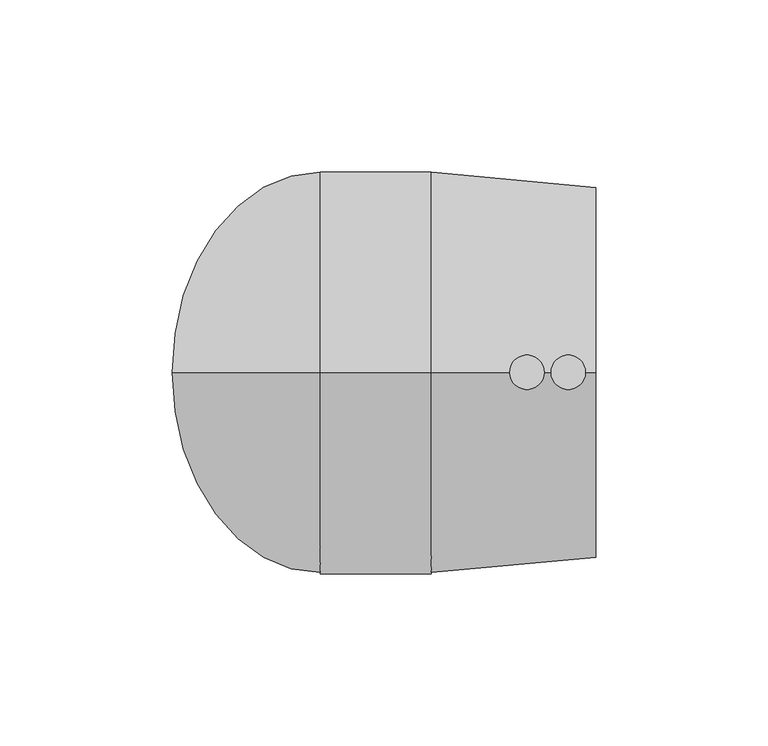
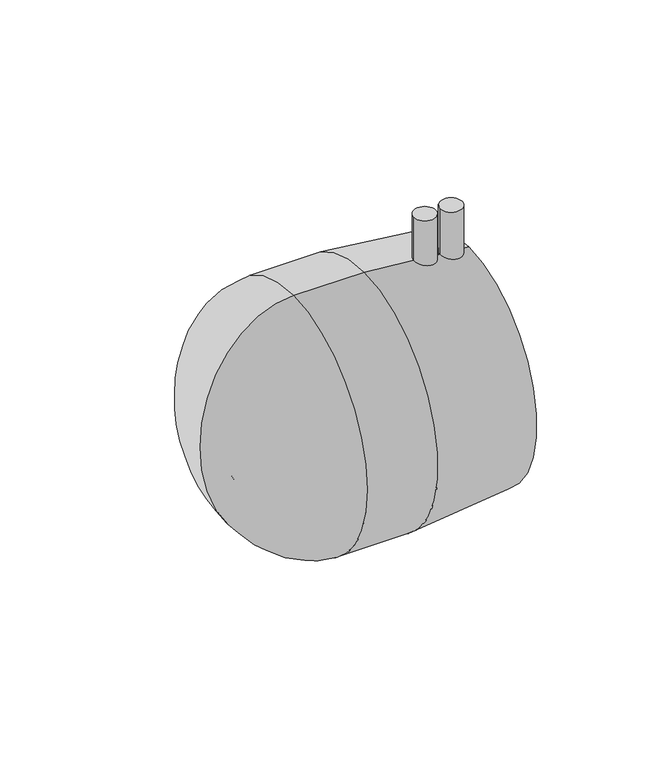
"""IFC4 building model written with IfcOpenShell, lengths in millimetres: pipe fitting geometry, Plumbing_Pipe-Fittings_Plasson_Monolithic-Weld-End-Cap-for-Balloon-Saddle_498304 : Plumbing_Pipe-Fittings_Plasson_Monolithic-Weld-End-Cap-for-Balloon-Saddle_498304."""

from ifc_helpers import new_model, si_unit, point, frame, frame_2d, origin, place, context, project, spatial, polyline, circle_curve, ellipse_curve, trimmed, segment, composite_curve, outline, extrude, source, transform, mapped, element, save
from ifc_brep_helpers import plane_surface, cylinder_surface, revolved_surface, advanced_brep


def pipe_fitting_ee337b03(model_context):
    return source(origin(), model_context, "Body", "SolidModel", [
        extrude(outline(composite_curve([segment(trimmed(circle_curve(frame_2d((58.5, 0.0)), 5.0), [point((53.5, 0.0))], [point((63.5, 0.0))], False, "CARTESIAN"), True, "CONTINUOUS"), segment(trimmed(circle_curve(frame_2d((58.5, 0.0)), 5.0), [point((63.5, 0.0))], [point((53.5, 0.0))], False, "CARTESIAN"), True, "CONTINUOUS")], self_intersect=False)), frame((0.0, 0.0, 51.75), z_axis=(0.0, 0.0, 1.0), x_axis=(1.0, 0.0, 0.0)), (0.0, 0.0, 1.0), 25.25),
        extrude(outline(composite_curve([segment(trimmed(circle_curve(frame_2d((70.5, 0.0)), 5.0), [point((65.5, 0.0))], [point((75.5, 0.0))], False, "CARTESIAN"), True, "CONTINUOUS"), segment(trimmed(circle_curve(frame_2d((70.5, 0.0)), 5.0), [point((75.5, 0.0))], [point((65.5, 0.0))], False, "CARTESIAN"), True, "CONTINUOUS")], self_intersect=False)), frame((0.0, 0.0, 51.75), z_axis=(0.0, 0.0, 1.0), x_axis=(1.0, 0.0, 0.0)), (0.0, 0.0, 1.0), 25.25),
        advanced_brep(
        [(78.5, 0.0, -54.0), (78.5, 0.0, 54.0), (78.5, 0.0, 45.0), (78.5, 0.0, -45.0), (30.75, 0.0, -58.5), (30.75, 0.0, 58.5), (-1.5, 0.0, -42.0), (-1.5, 0.0, 42.0), (-1.5, 0.0, 45.0), (-1.5, 0.0, -45.0), (1.5, 0.0, -42.0), (1.5, 0.0, 42.0), (1.5, 0.0, -45.0), (1.5, 0.0, 45.0), (-1.5, 0.0, -58.5), (-1.5, 0.0, 58.5), (-44.5, 0.0, 0.0), (-31.0, 0.0, 0.0)],
        [
            (0, 1, circle_curve(frame((78.5, 0.0, 0.0), z_axis=(1.0, 0.0, 0.0), x_axis=(0.0, 0.0, 1.0)), 54.0)),
            (1, 2),
            (2, 3, circle_curve(frame((78.5, 0.0, 0.0), z_axis=(-1.0, 0.0, 0.0), x_axis=(0.0, 0.0, 1.0)), 45.0)),
            (3, 0),
            (1, 0, circle_curve(frame((78.5, 0.0, 0.0), z_axis=(1.0, 0.0, 0.0), x_axis=(0.0, 0.0, 1.0)), 54.0)),
            (3, 2, circle_curve(frame((78.5, 0.0, 0.0), z_axis=(-1.0, 0.0, 0.0), x_axis=(0.0, 0.0, 1.0)), 45.0)),
            (4, 5, circle_curve(frame((30.75, 0.0, 0.0), z_axis=(1.0, 0.0, 0.0), x_axis=(0.0, 0.0, 1.0)), 58.5)),
            (5, 1),
            (0, 4),
            (5, 4, circle_curve(frame((30.75, 0.0, 0.0), z_axis=(1.0, 0.0, 0.0), x_axis=(0.0, 0.0, 1.0)), 58.5)),
            (6, 7, circle_curve(frame((-1.5, 0.0, 0.0), z_axis=(1.0, 0.0, 0.0), x_axis=(0.0, 0.0, 1.0)), 42.0)),
            (7, 8),
            (8, 9, circle_curve(frame((-1.5, 0.0, 0.0), z_axis=(-1.0, 0.0, 0.0), x_axis=(0.0, 0.0, 1.0)), 45.0)),
            (9, 6),
            (7, 6, circle_curve(frame((-1.5, 0.0, 0.0), z_axis=(1.0, 0.0, 0.0), x_axis=(0.0, 0.0, 1.0)), 42.0)),
            (9, 8, circle_curve(frame((-1.5, 0.0, 0.0), z_axis=(-1.0, 0.0, 0.0), x_axis=(0.0, 0.0, 1.0)), 45.0)),
            (10, 11, circle_curve(frame((1.5, 0.0, 0.0), z_axis=(1.0, 0.0, 0.0), x_axis=(0.0, 0.0, 1.0)), 42.0)),
            (11, 7),
            (6, 10),
            (11, 10, circle_curve(frame((1.5, 0.0, 0.0), z_axis=(1.0, 0.0, 0.0), x_axis=(0.0, 0.0, 1.0)), 42.0)),
            (12, 13, circle_curve(frame((1.5, 0.0, 0.0), z_axis=(1.0, 0.0, 0.0), x_axis=(0.0, 0.0, 1.0)), 45.0)),
            (13, 11),
            (10, 12),
            (13, 12, circle_curve(frame((1.5, 0.0, 0.0), z_axis=(1.0, 0.0, 0.0), x_axis=(0.0, 0.0, 1.0)), 45.0)),
            (2, 13),
            (12, 3),
            (14, 15, circle_curve(frame((-1.5, 0.0, 0.0), z_axis=(1.0, 0.0, 0.0), x_axis=(0.0, 0.0, 1.0)), 58.5)),
            (15, 5),
            (4, 14),
            (15, 14, circle_curve(frame((-1.5, 0.0, 0.0), z_axis=(1.0, 0.0, 0.0), x_axis=(0.0, 0.0, 1.0)), 58.5)),
            (16, 15, ellipse_curve(frame((-1.5, 0.0, 0.0), z_axis=(0.0, 1.0, 0.0), x_axis=(0.0, 0.0, 1.0)), 58.5, 43.0)),
            (14, 16, ellipse_curve(frame((-1.5, 0.0, 0.0), z_axis=(0.0, 1.0, 0.0), x_axis=(0.0, 0.0, -1.0)), 58.5, 43.0)),
            (8, 17, ellipse_curve(frame((-1.5, 0.0, 0.0), z_axis=(0.0, -1.0, 0.0), x_axis=(0.0, 0.0, 1.0)), 45.0, 29.5)),
            (17, 9, ellipse_curve(frame((-1.5, 0.0, 0.0), z_axis=(0.0, -1.0, 0.0), x_axis=(0.0, 0.0, -1.0)), 45.0, 29.5)),
        ],
        [
            plane_surface(frame((78.5, 0.0, 0.0), z_axis=(1.0, 0.0, 0.0), x_axis=(0.0, 0.0, 1.0))),
            revolved_surface(polyline([(78.5, 0.0, 54.0), (30.75, 0.0, 58.5)]), (-44.5, 0.0, 0.0), (-1.0, 0.0, 0.0)),
            plane_surface(frame((-1.5, 0.0, 0.0), z_axis=(-1.0, 0.0, 0.0), x_axis=(0.0, 0.0, 1.0))),
            revolved_surface(polyline([(-1.5, 0.0, 42.0), (1.5, 0.0, 42.0)]), (-44.5, 0.0, 0.0), (-1.0, 0.0, 0.0)),
            plane_surface(frame((1.5, 0.0, 0.0), z_axis=(1.0, 0.0, 0.0), x_axis=(0.0, 0.0, 1.0))),
            revolved_surface(polyline([(1.5, 0.0, 45.0), (78.5, 0.0, 45.0)]), (-44.5, 0.0, 0.0), (-1.0, 0.0, 0.0)),
            cylinder_surface(frame((-44.5, 0.0, 0.0), z_axis=(-1.0, 0.0, 0.0), x_axis=(0.0, 0.0, 1.0)), 58.5),
            revolved_surface(trimmed(ellipse_curve(frame((-1.5, 0.0, 0.0), z_axis=(0.0, -1.0, 0.0), x_axis=(0.0, 0.0, 1.0)), 58.5, 43.0), [point((-1.5, 0.0, 58.5))], [point((-44.5, 0.0, 0.0))], True, "CARTESIAN"), (-44.5, 0.0, 0.0), (-1.0, 0.0, 0.0)),
            revolved_surface(trimmed(ellipse_curve(frame((-1.5, 0.0, 0.0), z_axis=(0.0, 1.0, 0.0), x_axis=(0.0, 0.0, 1.0)), 45.0, 29.5), [point((-31.0, 0.0, 0.0))], [point((-1.5, 0.0, 45.0))], True, "CARTESIAN"), (-44.5, 0.0, 0.0), (-1.0, 0.0, 0.0)),
        ],
        [
            (0, [[1, 2, 3, 4]]),
            (0, [[5, -4, 6, -2]]),
            (1, [[7, 8, -1, 9]]),
            (1, [[10, -9, -5, -8]]),
            (2, [[11, 12, 13, 14]]),
            (2, [[15, -14, 16, -12]]),
            (3, [[17, 18, -11, 19]]),
            (3, [[20, -19, -15, -18]]),
            (4, [[21, 22, -17, 23]]),
            (4, [[24, -23, -20, -22]]),
            (5, [[-3, 25, -21, 26]]),
            (5, [[-6, -26, -24, -25]]),
            (6, [[27, 28, -7, 29]]),
            (6, [[30, -29, -10, -28]]),
            (7, [[31, -27, 32]]),
            (7, [[-32, -30, -31]]),
            (8, [[-13, 33, 34]]),
            (8, [[-16, -34, -33]]),
        ],
    ),
    ])


if __name__ == "__main__":
    model = new_model("IFC4")
    model_context = context("Model", 3, world=origin())
    ifc_project = project(units=[si_unit("LENGTHUNIT", "METRE", prefix="MILLI")], contexts=[model_context])
    site = spatial("IfcSite", under=ifc_project)
    building = spatial("IfcBuilding", under=site)
    placement = place(None, origin())
    pipe_fitting_shape = pipe_fitting_ee337b03(model_context)
    element("IfcPipeFitting", 1, ObjectType="Plumbing_Pipe-Fittings_Plasson_Monolithic-Weld-End-Cap-for-Balloon-Saddle_498304 : Plumbing_Pipe-Fittings_Plasson_Monolithic-Weld-End-Cap-for-Balloon-Saddle_498304", at=placement, inside=building, context=model_context, shape_type="MappedRepresentation", body=[
        mapped(pipe_fitting_shape, transform((0.0, 0.0, 0.0), x_axis=(1.0, 0.0, 0.0), y_axis=(0.0, 1.0, 0.0), z_axis=(0.0, 0.0, 1.0))),
    ])
    save(model, "model.ifc")
